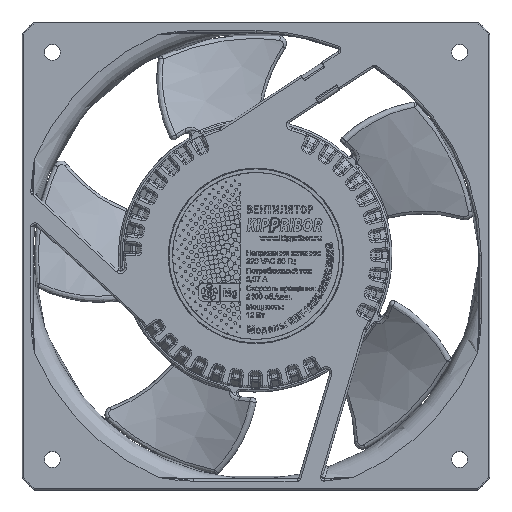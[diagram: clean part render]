
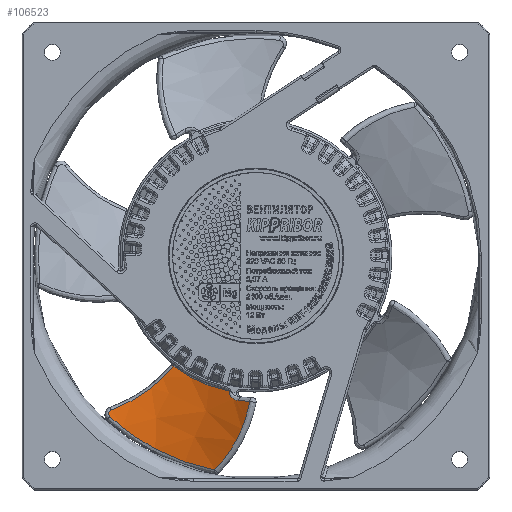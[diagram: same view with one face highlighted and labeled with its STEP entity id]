
A CAD part, top view. The second image highlights one B-rep face of the part: STEP entity #106523.
In plain terms, the highlighted free-form (B-spline) face has degree [3, 3] with [4, 4] control points.
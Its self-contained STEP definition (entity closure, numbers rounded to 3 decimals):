
#21812=FACE_OUTER_BOUND('',#28596,.T.);
#28596=EDGE_LOOP('',(#82145,#82146,#82147,#82148,#82149,#82150,#82151,#82152,
#82153));
#34738=B_SPLINE_CURVE_WITH_KNOTS('',3,(#190931,#190932,#190933,#190934,
#190935),.UNSPECIFIED.,.F.,.F.,(4,1,4),(0.,1.023,1.79),
 .UNSPECIFIED.);
#34743=B_SPLINE_CURVE_WITH_KNOTS('',3,(#191102,#191103,#191104,#191105),
 .UNSPECIFIED.,.F.,.F.,(4,4),(-1.051,-1.015),
 .UNSPECIFIED.);
#34745=B_SPLINE_CURVE_WITH_KNOTS('',3,(#191144,#191145,#191146,#191147),
 .UNSPECIFIED.,.F.,.F.,(4,4),(-0.001,0.),
 .UNSPECIFIED.);
#34747=B_SPLINE_CURVE_WITH_KNOTS('',3,(#191171,#191172,#191173,#191174,
#191175),.UNSPECIFIED.,.F.,.F.,(4,1,4),(-2.166,-1.308,
-0.166),.UNSPECIFIED.);
#34748=B_SPLINE_CURVE_WITH_KNOTS('',3,(#191177,#191178,#191179,#191180,
#191181,#191182),.UNSPECIFIED.,.F.,.F.,(4,1,1,4),(0.,0.091,
0.151,0.211),.UNSPECIFIED.);
#34749=B_SPLINE_CURVE_WITH_KNOTS('',3,(#191184,#191185,#191186,#191187,
#191188),.UNSPECIFIED.,.F.,.F.,(4,1,4),(-3.225,-1.382,
0.),.UNSPECIFIED.);
#34750=B_SPLINE_CURVE_WITH_KNOTS('',3,(#191190,#191191,#191192,#191193,
#191194),.UNSPECIFIED.,.F.,.F.,(4,1,4),(-2.068,-1.182,
0.),.UNSPECIFIED.);
#34751=B_SPLINE_CURVE_WITH_KNOTS('',3,(#191196,#191197,#191198,#191199),
 .UNSPECIFIED.,.F.,.F.,(4,4),(-0.364,0.),.UNSPECIFIED.);
#34752=B_SPLINE_CURVE_WITH_KNOTS('',3,(#191200,#191201,#191202,#191203,
#191204,#191205,#191206),.UNSPECIFIED.,.F.,.F.,(4,1,1,1,4),(0.,0.063,
0.125,0.25,0.438),.UNSPECIFIED.);
#45814=VERTEX_POINT('',#190928);
#45815=VERTEX_POINT('',#190930);
#45820=VERTEX_POINT('',#191101);
#45821=VERTEX_POINT('',#191143);
#45823=VERTEX_POINT('',#191170);
#45824=VERTEX_POINT('',#191176);
#45825=VERTEX_POINT('',#191183);
#45826=VERTEX_POINT('',#191189);
#45827=VERTEX_POINT('',#191195);
#58916=EDGE_CURVE('',#45814,#45815,#34738,.T.);
#58927=EDGE_CURVE('',#45815,#45820,#34743,.T.);
#58930=EDGE_CURVE('',#45820,#45821,#34745,.T.);
#58933=EDGE_CURVE('',#45823,#45814,#34747,.T.);
#58934=EDGE_CURVE('',#45824,#45823,#34748,.T.);
#58935=EDGE_CURVE('',#45825,#45824,#34749,.T.);
#58936=EDGE_CURVE('',#45826,#45825,#34750,.T.);
#58937=EDGE_CURVE('',#45827,#45826,#34751,.T.);
#58938=EDGE_CURVE('',#45821,#45827,#34752,.T.);
#82145=ORIENTED_EDGE('',*,*,#58927,.F.);
#82146=ORIENTED_EDGE('',*,*,#58916,.F.);
#82147=ORIENTED_EDGE('',*,*,#58933,.F.);
#82148=ORIENTED_EDGE('',*,*,#58934,.F.);
#82149=ORIENTED_EDGE('',*,*,#58935,.F.);
#82150=ORIENTED_EDGE('',*,*,#58936,.F.);
#82151=ORIENTED_EDGE('',*,*,#58937,.F.);
#82152=ORIENTED_EDGE('',*,*,#58938,.F.);
#82153=ORIENTED_EDGE('',*,*,#58930,.F.);
#101606=B_SPLINE_SURFACE_WITH_KNOTS('',3,3,((#191154,#191155,#191156,#191157),
(#191158,#191159,#191160,#191161),(#191162,#191163,#191164,#191165),(#191166,
#191167,#191168,#191169)),.UNSPECIFIED.,.F.,.F.,.F.,(4,4),(4,4),(2.855,
3.121),(0.048,0.292),.UNSPECIFIED.);
#106523=ADVANCED_FACE('',(#21812),#101606,.T.);
#190928=CARTESIAN_POINT('',(35.205,4.173,3.433));
#190930=CARTESIAN_POINT('',(30.024,18.869,12.125));
#190931=CARTESIAN_POINT('Ctrl Pts',(35.205,4.173,3.433));
#190932=CARTESIAN_POINT('Ctrl Pts',(34.842,7.23,4.912));
#190933=CARTESIAN_POINT('Ctrl Pts',(33.502,12.457,7.598));
#190934=CARTESIAN_POINT('Ctrl Pts',(31.16,17.053,10.702));
#190935=CARTESIAN_POINT('Ctrl Pts',(30.024,18.869,12.125));
#191101=CARTESIAN_POINT('',(29.861,19.128,12.33));
#191102=CARTESIAN_POINT('Ctrl Pts',(30.024,18.869,12.125));
#191103=CARTESIAN_POINT('Ctrl Pts',(29.97,18.956,12.193));
#191104=CARTESIAN_POINT('Ctrl Pts',(29.916,19.042,12.262));
#191105=CARTESIAN_POINT('Ctrl Pts',(29.861,19.128,12.33));
#191143=CARTESIAN_POINT('',(29.865,19.131,12.33));
#191144=CARTESIAN_POINT('Ctrl Pts',(29.861,19.128,12.33));
#191145=CARTESIAN_POINT('Ctrl Pts',(29.862,19.129,12.33));
#191146=CARTESIAN_POINT('Ctrl Pts',(29.864,19.13,12.33));
#191147=CARTESIAN_POINT('Ctrl Pts',(29.865,19.131,12.33));
#191154=CARTESIAN_POINT('Ctrl Pts',(27.837,25.356,16.924));
#191155=CARTESIAN_POINT('Ctrl Pts',(34.494,28.325,15.663));
#191156=CARTESIAN_POINT('Ctrl Pts',(41.198,31.146,14.307));
#191157=CARTESIAN_POINT('Ctrl Pts',(47.956,33.804,12.898));
#191158=CARTESIAN_POINT('Ctrl Pts',(30.759,16.365,9.858));
#191159=CARTESIAN_POINT('Ctrl Pts',(37.593,18.787,9.365));
#191160=CARTESIAN_POINT('Ctrl Pts',(44.445,21.152,8.849));
#191161=CARTESIAN_POINT('Ctrl Pts',(51.318,23.456,8.324));
#191162=CARTESIAN_POINT('Ctrl Pts',(33.972,6.474,4.06));
#191163=CARTESIAN_POINT('Ctrl Pts',(40.952,8.448,4.412));
#191164=CARTESIAN_POINT('Ctrl Pts',(47.919,10.463,4.8));
#191165=CARTESIAN_POINT('Ctrl Pts',(54.87,12.526,5.21));
#191166=CARTESIAN_POINT('Ctrl Pts',(37.366,-3.969,
-0.267));
#191167=CARTESIAN_POINT('Ctrl Pts',(44.454,-2.33,
0.979));
#191168=CARTESIAN_POINT('Ctrl Pts',(51.496,-0.546,
2.302));
#191169=CARTESIAN_POINT('Ctrl Pts',(58.485,1.397,3.664));
#191170=CARTESIAN_POINT('',(54.4,0.538,2.934));
#191171=CARTESIAN_POINT('Ctrl Pts',(54.4,0.538,
2.934));
#191172=CARTESIAN_POINT('Ctrl Pts',(51.883,1.803,2.909));
#191173=CARTESIAN_POINT('Ctrl Pts',(45.649,4.049,3.055));
#191174=CARTESIAN_POINT('Ctrl Pts',(38.982,4.508,3.4));
#191175=CARTESIAN_POINT('Ctrl Pts',(35.205,4.173,3.433));
#191176=CARTESIAN_POINT('',(55.853,1.475,3.326));
#191177=CARTESIAN_POINT('Ctrl Pts',(55.853,1.475,3.326));
#191178=CARTESIAN_POINT('Ctrl Pts',(55.859,1.181,3.264));
#191179=CARTESIAN_POINT('Ctrl Pts',(55.64,0.692,
3.13));
#191180=CARTESIAN_POINT('Ctrl Pts',(54.987,0.386,
2.974));
#191181=CARTESIAN_POINT('Ctrl Pts',(54.577,0.449,2.935));
#191182=CARTESIAN_POINT('Ctrl Pts',(54.4,0.538,
2.934));
#191183=CARTESIAN_POINT('',(47.034,30.508,12.085));
#191184=CARTESIAN_POINT('Ctrl Pts',(47.034,30.508,12.085));
#191185=CARTESIAN_POINT('Ctrl Pts',(50.039,25.864,9.583));
#191186=CARTESIAN_POINT('Ctrl Pts',(54.305,16.455,6.412));
#191187=CARTESIAN_POINT('Ctrl Pts',(55.768,5.977,4.287));
#191188=CARTESIAN_POINT('Ctrl Pts',(55.853,1.475,3.326));
#191189=CARTESIAN_POINT('',(28.069,24.773,16.449));
#191190=CARTESIAN_POINT('Ctrl Pts',(28.069,24.773,16.449));
#191191=CARTESIAN_POINT('Ctrl Pts',(30.545,26.402,16.338));
#191192=CARTESIAN_POINT('Ctrl Pts',(36.742,29.418,15.243));
#191193=CARTESIAN_POINT('Ctrl Pts',(43.298,30.5,13.22));
#191194=CARTESIAN_POINT('Ctrl Pts',(47.034,30.508,12.085));
#191195=CARTESIAN_POINT('',(29.914,22.549,14.317));
#191196=CARTESIAN_POINT('Ctrl Pts',(29.914,22.549,14.317));
#191197=CARTESIAN_POINT('Ctrl Pts',(29.319,23.327,15.007));
#191198=CARTESIAN_POINT('Ctrl Pts',(28.703,24.068,15.718));
#191199=CARTESIAN_POINT('Ctrl Pts',(28.069,24.773,16.449));
#191200=CARTESIAN_POINT('Ctrl Pts',(29.865,19.131,12.33));
#191201=CARTESIAN_POINT('Ctrl Pts',(30.046,19.236,12.331));
#191202=CARTESIAN_POINT('Ctrl Pts',(30.354,19.536,12.403));
#191203=CARTESIAN_POINT('Ctrl Pts',(30.645,20.272,12.728));
#191204=CARTESIAN_POINT('Ctrl Pts',(30.598,21.369,13.37));
#191205=CARTESIAN_POINT('Ctrl Pts',(30.22,22.148,13.96));
#191206=CARTESIAN_POINT('Ctrl Pts',(29.914,22.549,14.317));
